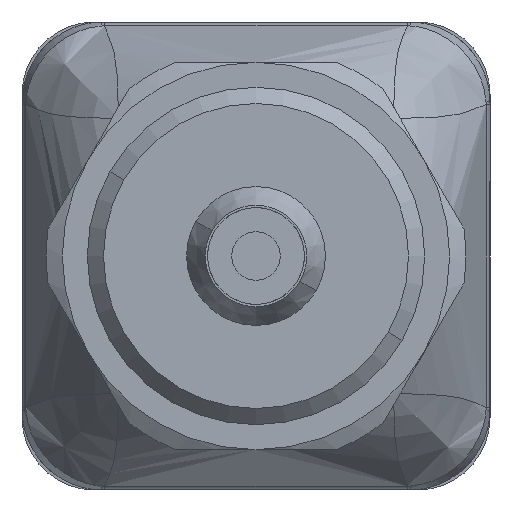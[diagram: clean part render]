
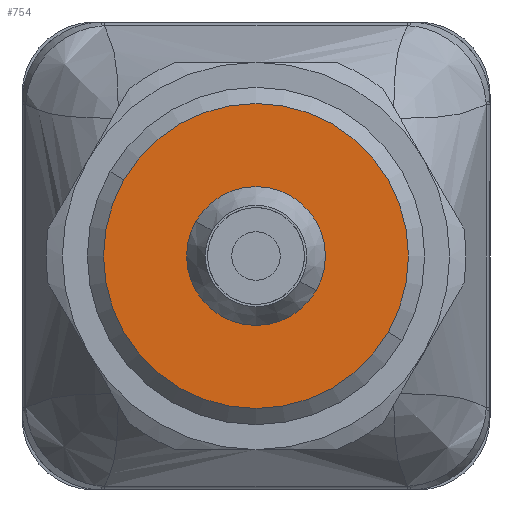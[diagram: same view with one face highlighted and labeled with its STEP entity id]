
A CAD part, left-side view. The second image highlights one B-rep face of the part: STEP entity #754.
In plain terms, the highlighted planar face has unit normal (-1, 0, 0).
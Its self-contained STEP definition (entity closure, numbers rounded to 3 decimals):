
#122 = ORIENTED_EDGE ( 'NONE', *, *, #6734, .T. ) ;
#446 = ORIENTED_EDGE ( 'NONE', *, *, #2811, .T. ) ;
#560 = FACE_OUTER_BOUND ( 'NONE', #3933, .T. ) ;
#648 = ORIENTED_EDGE ( 'NONE', *, *, #872, .F. ) ;
#754 = ADVANCED_FACE ( 'NONE', ( #560, #7688 ), #6181, .F. ) ;
#816 = CARTESIAN_POINT ( 'NONE',  ( -79.205, -42.635, 32.431 ) ) ;
#835 = VERTEX_POINT ( 'NONE', #4359 ) ;
#872 = EDGE_CURVE ( 'NONE', #6478, #5161, #3707, .T. ) ;
#878 = DIRECTION ( 'NONE',  ( -1., 0., 0. ) ) ;
#1145 = AXIS2_PLACEMENT_3D ( 'NONE', #2731, #3437, #3327 ) ;
#1403 = DIRECTION ( 'NONE',  ( -1., 0., 0. ) ) ;
#1660 = CIRCLE ( 'NONE', #8456, 9.45 ) ;
#2291 = DIRECTION ( 'NONE',  ( 1., 0., 0. ) ) ;
#2731 = CARTESIAN_POINT ( 'NONE',  ( -79.205, -42.635, 32.431 ) ) ;
#2811 = EDGE_CURVE ( 'NONE', #835, #8060, #1660, .T. ) ;
#2873 = AXIS2_PLACEMENT_3D ( 'NONE', #5045, #878, #2887 ) ;
#2887 = DIRECTION ( 'NONE',  ( 0., -0.866, -0.5 ) ) ;
#2916 = AXIS2_PLACEMENT_3D ( 'NONE', #4772, #1403, #3407 ) ;
#3197 = ORIENTED_EDGE ( 'NONE', *, *, #8815, .F. ) ;
#3327 = DIRECTION ( 'NONE',  ( 0., -0.866, -0.5 ) ) ;
#3407 = DIRECTION ( 'NONE',  ( 0., -0.866, -0.5 ) ) ;
#3437 = DIRECTION ( 'NONE',  ( -1., 0., 0. ) ) ;
#3625 = CARTESIAN_POINT ( 'NONE',  ( -79.205, -34.451, 37.156 ) ) ;
#3707 = CIRCLE ( 'NONE', #2873, 4.3 ) ;
#3762 = CARTESIAN_POINT ( 'NONE',  ( -79.205, -38.911, 34.581 ) ) ;
#3933 = EDGE_LOOP ( 'NONE', ( #446, #122 ) ) ;
#4276 = DIRECTION ( 'NONE',  ( 0., -0.866, -0.5 ) ) ;
#4339 = EDGE_LOOP ( 'NONE', ( #3197, #648 ) ) ;
#4359 = CARTESIAN_POINT ( 'NONE',  ( -79.205, -50.819, 27.706 ) ) ;
#4568 = CARTESIAN_POINT ( 'NONE',  ( -79.205, -42.635, 32.431 ) ) ;
#4598 = DIRECTION ( 'NONE',  ( 0., -0.866, -0.5 ) ) ;
#4772 = CARTESIAN_POINT ( 'NONE',  ( -79.205, -42.635, 32.431 ) ) ;
#4774 = CARTESIAN_POINT ( 'NONE',  ( -79.205, -46.359, 30.281 ) ) ;
#5045 = CARTESIAN_POINT ( 'NONE',  ( -79.205, -42.635, 32.431 ) ) ;
#5161 = VERTEX_POINT ( 'NONE', #4774 ) ;
#6181 = PLANE ( 'NONE',  #8421 ) ;
#6261 = CIRCLE ( 'NONE', #2916, 9.45 ) ;
#6478 = VERTEX_POINT ( 'NONE', #3762 ) ;
#6734 = EDGE_CURVE ( 'NONE', #8060, #835, #6261, .T. ) ;
#7033 = CIRCLE ( 'NONE', #1145, 4.3 ) ;
#7688 = FACE_BOUND ( 'NONE', #4339, .T. ) ;
#8044 = DIRECTION ( 'NONE',  ( -1., 0., 0. ) ) ;
#8060 = VERTEX_POINT ( 'NONE', #3625 ) ;
#8421 = AXIS2_PLACEMENT_3D ( 'NONE', #816, #2291, #4276 ) ;
#8456 = AXIS2_PLACEMENT_3D ( 'NONE', #4568, #8044, #4598 ) ;
#8815 = EDGE_CURVE ( 'NONE', #5161, #6478, #7033, .T. ) ;
